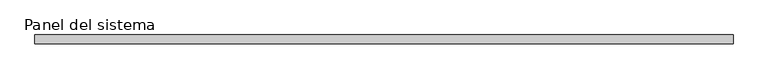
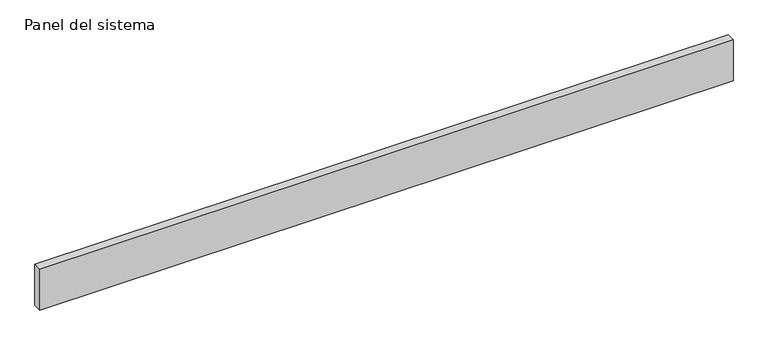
"""IFC4 building model written with IfcOpenShell, lengths in millimetres: plate geometry, Panel del sistema : HIANSA - CHAPA PERFILADA CUBIERTA - MT53MA7 Hor."""

from ifc_helpers import new_model, si_unit, origin, origin_with_axes, place, context, project, spatial, polyline, outline, extrude, source, transform, mapped, element, save


def panel_del_sistema_777d9fad(model_context):
    return source(origin(), model_context, "Body", "SweptSolid", [
        extrude(outline(polyline([(2128.0, -52.5), (-2128.0, -52.5), (-2128.0, 0.5), (2128.0, 0.5), (2128.0, -52.5)])), origin_with_axes(), (0.0, 0.0, 1.0), 264.0),
    ])


if __name__ == "__main__":
    model = new_model("IFC4")
    model_context = context("Model", 3, world=origin())
    ifc_project = project(units=[si_unit("LENGTHUNIT", "METRE", prefix="MILLI")], contexts=[model_context])
    site = spatial("IfcSite", under=ifc_project)
    building = spatial("IfcBuilding", under=site)
    placement = place(None, origin())
    panel_del_sistema_shape = panel_del_sistema_777d9fad(model_context)
    element("IfcPlate", 1, ObjectType="Panel del sistema : HIANSA - CHAPA PERFILADA CUBIERTA - MT53MA7 Hor", at=placement, inside=building, context=model_context, shape_type="MappedRepresentation", body=[
        mapped(panel_del_sistema_shape, transform((0.0, 0.0, 0.0), x_axis=(1.0, 0.0, 0.0), y_axis=(0.0, 1.0, 0.0), z_axis=(0.0, 0.0, 1.0))),
    ])
    save(model, "model.ifc")
